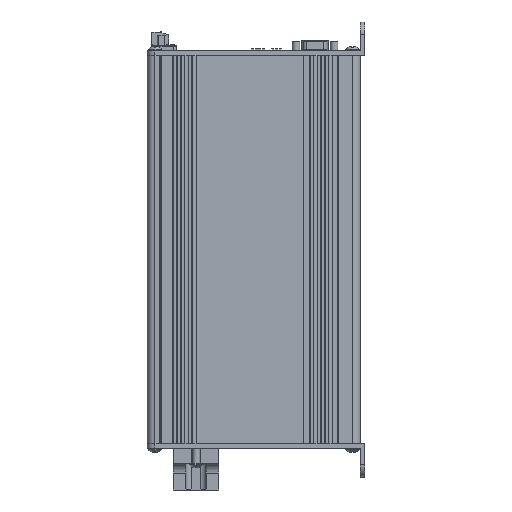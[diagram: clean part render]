
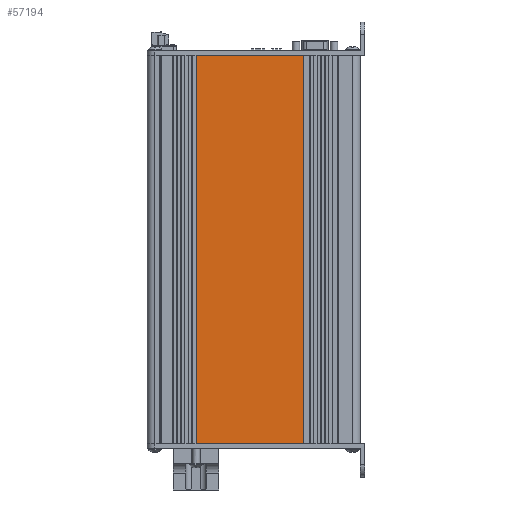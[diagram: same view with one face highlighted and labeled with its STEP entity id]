
A CAD part, left-side view. The second image highlights one B-rep face of the part: STEP entity #57194.
In plain terms, the highlighted planar face has unit normal (-1, 0, 0).
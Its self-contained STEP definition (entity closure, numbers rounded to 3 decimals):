
#7904=FACE_OUTER_BOUND('',#10913,.T.);
#10913=EDGE_LOOP('',(#49906,#49907,#49908,#49909));
#14887=LINE('',#109365,#19354);
#15251=LINE('',#110344,#19718);
#15252=LINE('',#110347,#19719);
#15253=LINE('',#110348,#19720);
#19354=VECTOR('',#72540,0.394);
#19718=VECTOR('',#73486,0.394);
#19719=VECTOR('',#73489,0.394);
#19720=VECTOR('',#73490,0.394);
#25562=VERTEX_POINT('',#109362);
#25563=VERTEX_POINT('',#109364);
#25883=VERTEX_POINT('',#110342);
#25884=VERTEX_POINT('',#110346);
#33516=EDGE_CURVE('',#25563,#25562,#14887,.T.);
#34013=EDGE_CURVE('',#25562,#25883,#15251,.T.);
#34014=EDGE_CURVE('',#25884,#25883,#15252,.T.);
#34015=EDGE_CURVE('',#25563,#25884,#15253,.T.);
#49906=ORIENTED_EDGE('',*,*,#33516,.T.);
#49907=ORIENTED_EDGE('',*,*,#34013,.T.);
#49908=ORIENTED_EDGE('',*,*,#34014,.F.);
#49909=ORIENTED_EDGE('',*,*,#34015,.F.);
#52557=PLANE('',#61322);
#57194=ADVANCED_FACE('',(#7904),#52557,.T.);
#61322=AXIS2_PLACEMENT_3D('',#110345,#73487,#73488);
#72540=DIRECTION('',(0.,-1.,0.));
#73486=DIRECTION('',(0.,0.,1.));
#73487=DIRECTION('center_axis',(-1.,0.,0.));
#73488=DIRECTION('ref_axis',(0.,-1.,0.));
#73489=DIRECTION('',(0.,-1.,0.));
#73490=DIRECTION('',(0.,0.,1.));
#109362=CARTESIAN_POINT('',(0.672,1.895,-10.039));
#109364=CARTESIAN_POINT('',(0.672,4.651,-10.039));
#109365=CARTESIAN_POINT('',(0.672,4.651,-10.039));
#110342=CARTESIAN_POINT('',(0.672,1.895,0.));
#110344=CARTESIAN_POINT('',(0.672,1.895,-10.039));
#110345=CARTESIAN_POINT('Origin',(0.672,4.651,-10.039));
#110346=CARTESIAN_POINT('',(0.672,4.651,0.));
#110347=CARTESIAN_POINT('',(0.672,3.882,0.));
#110348=CARTESIAN_POINT('',(0.672,4.651,-10.039));
